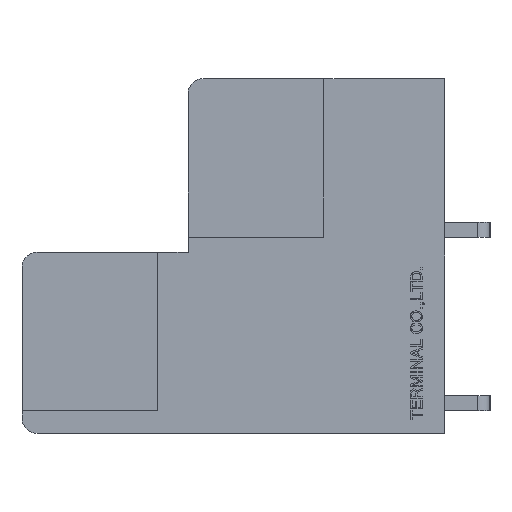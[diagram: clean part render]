
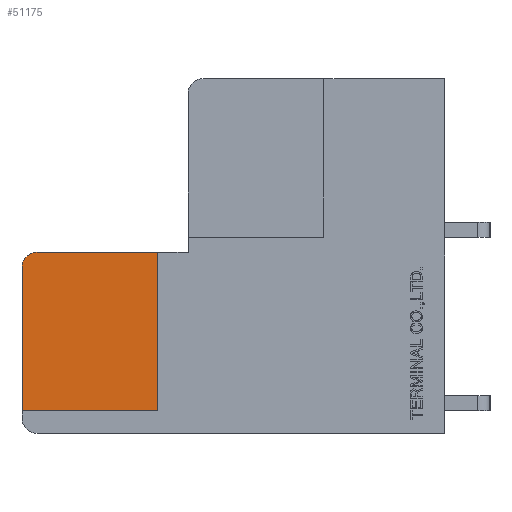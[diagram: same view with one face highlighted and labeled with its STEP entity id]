
A CAD part, left-side view. The second image highlights one B-rep face of the part: STEP entity #51175.
In plain terms, the highlighted planar face has unit normal (-1, 0, 0).
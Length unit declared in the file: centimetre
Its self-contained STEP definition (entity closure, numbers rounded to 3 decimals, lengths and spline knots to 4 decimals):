
#625=CIRCLE('',#87395,0.1);
#2991=VERTEX_POINT('',#67993);
#2992=VERTEX_POINT('',#67994);
#2995=VERTEX_POINT('',#68002);
#2997=VERTEX_POINT('',#68008);
#2998=VERTEX_POINT('',#68010);
#8366=VECTOR('',#56899,1.);
#8370=VECTOR('',#56904,1.);
#8373=VECTOR('',#56908,1.);
#8374=VECTOR('',#56911,1.);
#14431=LINE('',#67992,#8366);
#14435=LINE('',#68001,#8370);
#14438=LINE('',#68007,#8373);
#14439=LINE('',#68011,#8374);
#20600=EDGE_CURVE('',#2991,#2992,#14431,.T.);
#20604=EDGE_CURVE('',#2995,#2991,#14435,.T.);
#20607=EDGE_CURVE('',#2997,#2992,#14438,.T.);
#20608=EDGE_CURVE('',#2998,#2997,#625,.T.);
#20609=EDGE_CURVE('',#2995,#2998,#14439,.T.);
#28977=ORIENTED_EDGE('',*,*,#20604,.T.);
#28978=ORIENTED_EDGE('',*,*,#20600,.T.);
#28979=ORIENTED_EDGE('',*,*,#20607,.F.);
#28980=ORIENTED_EDGE('',*,*,#20608,.F.);
#28981=ORIENTED_EDGE('',*,*,#20609,.F.);
#44477=EDGE_LOOP('',(#28977,#28978,#28979,#28980,#28981));
#47828=FACE_BOUND('',#44477,.T.);
#51175=ADVANCED_FACE('',(#47828),#54214,.F.);
#54214=PLANE('',#87394);
#56899=DIRECTION('',(0.,0.,1.));
#56904=DIRECTION('',(0.,-1.,0.));
#56907=DIRECTION('',(1.,0.,0.));
#56908=DIRECTION('',(0.,-1.,0.));
#56909=DIRECTION('',(1.,0.,0.));
#56910=DIRECTION('',(0.,0.,-0.1));
#56911=DIRECTION('',(0.,0.,1.));
#67992=CARTESIAN_POINT('',(-1.76,-0.145,0.0375));
#67993=CARTESIAN_POINT('',(-1.76,-0.145,-0.45));
#67994=CARTESIAN_POINT('',(-1.76,-0.145,0.6));
#68001=CARTESIAN_POINT('',(-1.76,-0.1777,-0.45));
#68002=CARTESIAN_POINT('',(-1.76,0.755,-0.45));
#68006=CARTESIAN_POINT('',(-1.76,-0.6604,0.));
#68007=CARTESIAN_POINT('',(-1.76,0.655,0.6));
#68008=CARTESIAN_POINT('',(-1.76,0.655,0.6));
#68009=CARTESIAN_POINT('',(-1.76,0.655,0.5));
#68010=CARTESIAN_POINT('',(-1.76,0.755,0.5));
#68011=CARTESIAN_POINT('',(-1.76,0.755,-0.5));
#87394=AXIS2_PLACEMENT_3D('',#68006,#56907,$);
#87395=AXIS2_PLACEMENT_3D('',#68009,#56909,#56910);
